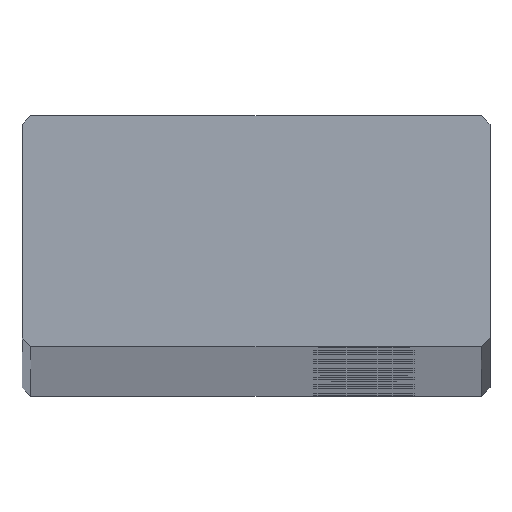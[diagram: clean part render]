
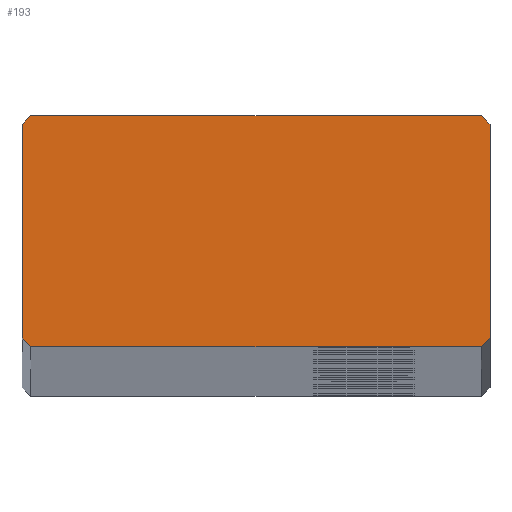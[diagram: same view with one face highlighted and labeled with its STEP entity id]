
A CAD part, top view. The second image highlights one B-rep face of the part: STEP entity #193.
In plain terms, the highlighted planar face has unit normal (0, 0, 1).
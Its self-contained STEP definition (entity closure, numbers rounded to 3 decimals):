
#193=ADVANCED_FACE('',(#498),#499,.T.);
#498=FACE_OUTER_BOUND('',#804,.T.);
#499=PLANE('',#805);
#804=EDGE_LOOP('',(#1722,#1723,#1724,#1725,#1726,#1727,#1728,#1729));
#805=AXIS2_PLACEMENT_3D('',#1730,#1731,#1732);
#1722=ORIENTED_EDGE('',*,*,#2008,.F.);
#1723=ORIENTED_EDGE('',*,*,#2030,.F.);
#1724=ORIENTED_EDGE('',*,*,#2027,.F.);
#1725=ORIENTED_EDGE('',*,*,#2024,.F.);
#1726=ORIENTED_EDGE('',*,*,#2021,.F.);
#1727=ORIENTED_EDGE('',*,*,#2018,.F.);
#1728=ORIENTED_EDGE('',*,*,#2015,.F.);
#1729=ORIENTED_EDGE('',*,*,#2012,.F.);
#1730=CARTESIAN_POINT('',(0.,8.0,1976.0));
#1731=DIRECTION('',(0.0,0.0,1.0));
#1732=DIRECTION('',(1.0,0.0,0.0));
#2008=EDGE_CURVE('',#2472,#2473,#2474,.T.);
#2012=EDGE_CURVE('',#2473,#2480,#2481,.T.);
#2015=EDGE_CURVE('',#2480,#2485,#2486,.T.);
#2018=EDGE_CURVE('',#2485,#2490,#2491,.T.);
#2021=EDGE_CURVE('',#2490,#2495,#2496,.T.);
#2024=EDGE_CURVE('',#2495,#2500,#2501,.T.);
#2027=EDGE_CURVE('',#2500,#2505,#2506,.T.);
#2030=EDGE_CURVE('',#2505,#2472,#2510,.T.);
#2472=VERTEX_POINT('',#3040);
#2473=VERTEX_POINT('',#3041);
#2474=LINE('',#3042,#3043);
#2480=VERTEX_POINT('',#3052);
#2481=LINE('',#3053,#3054);
#2485=VERTEX_POINT('',#3060);
#2486=LINE('',#3061,#3062);
#2490=VERTEX_POINT('',#3068);
#2491=LINE('',#3069,#3070);
#2495=VERTEX_POINT('',#3076);
#2496=LINE('',#3077,#3078);
#2500=VERTEX_POINT('',#3084);
#2501=LINE('',#3085,#3086);
#2505=VERTEX_POINT('',#3092);
#2506=LINE('',#3093,#3094);
#2510=LINE('',#3100,#3101);
#3040=CARTESIAN_POINT('',(-15.6,0.,1976.0));
#3041=CARTESIAN_POINT('',(-16.2,0.6,1976.0));
#3042=CARTESIAN_POINT('',(-15.6,0.,1976.0));
#3043=VECTOR('',#3720,1.0);
#3052=CARTESIAN_POINT('',(-16.2,15.4,1976.0));
#3053=CARTESIAN_POINT('',(-16.2,0.6,1976.0));
#3054=VECTOR('',#3724,1.0);
#3060=CARTESIAN_POINT('',(-15.6,16.0,1976.0));
#3061=CARTESIAN_POINT('',(-16.2,15.4,1976.0));
#3062=VECTOR('',#3727,1.0);
#3068=CARTESIAN_POINT('',(15.6,16.0,1976.0));
#3069=CARTESIAN_POINT('',(-15.6,16.0,1976.0));
#3070=VECTOR('',#3730,1.0);
#3076=CARTESIAN_POINT('',(16.2,15.4,1976.0));
#3077=CARTESIAN_POINT('',(15.6,16.0,1976.0));
#3078=VECTOR('',#3733,1.0);
#3084=CARTESIAN_POINT('',(16.2,0.6,1976.0));
#3085=CARTESIAN_POINT('',(16.2,0.6,1976.0));
#3086=VECTOR('',#3736,1.0);
#3092=CARTESIAN_POINT('',(15.6,0.,1976.0));
#3093=CARTESIAN_POINT('',(15.6,0.,1976.0));
#3094=VECTOR('',#3739,1.0);
#3100=CARTESIAN_POINT('',(-15.6,0.,1976.0));
#3101=VECTOR('',#3742,1.0);
#3720=DIRECTION('',(-0.707,0.707,0.0));
#3724=DIRECTION('',(0.0,1.0,0.0));
#3727=DIRECTION('',(0.707,0.707,0.0));
#3730=DIRECTION('',(1.0,0.0,0.0));
#3733=DIRECTION('',(0.707,-0.707,0.0));
#3736=DIRECTION('',(-0.0,-1.0,-0.0));
#3739=DIRECTION('',(-0.707,-0.707,-0.0));
#3742=DIRECTION('',(-1.0,-0.0,-0.0));
